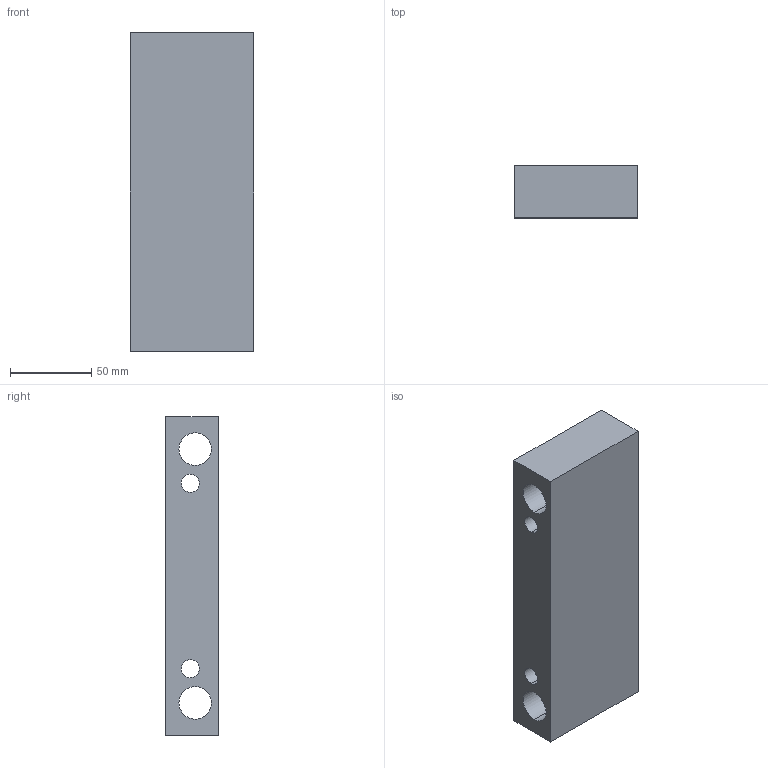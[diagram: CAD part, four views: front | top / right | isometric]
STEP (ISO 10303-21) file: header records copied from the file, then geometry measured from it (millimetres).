
FILE_DESCRIPTION (( 'STEP AP203' ), '1' );
FILE_NAME ('005 Entretoise.STEP', '2021-10-27T18:19:47', ( '' ), ( '' ), 'SwSTEP 2.0', 'SolidWorks 2019', '' );
FILE_SCHEMA (( 'CONFIG_CONTROL_DESIGN' ));
Length unit declared in the file: millimetre
Products named in the file (1): 005 Entretoise
Bounding box: 76 x 32 x 196 mm (x, y, z)
Volume: 414474.7 mm3; surface area: 60366.4 mm2
Topology: 1 solids, 1 shells, 14 faces, 36 edges, 24 vertices
Faces by surface type: cylinder 8, plane 6
Entity records: 529 total; most frequent: DIRECTION 82, CARTESIAN_POINT 75, ORIENTED_EDGE 72, EDGE_CURVE 36, AXIS2_PLACEMENT_3D 31, VERTEX_POINT 24, EDGE_LOOP 22, VECTOR 20
